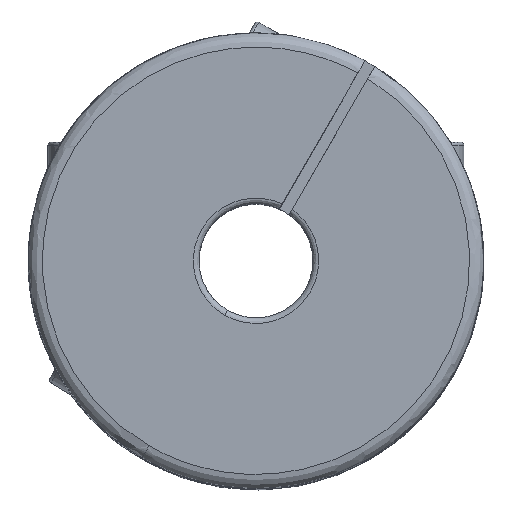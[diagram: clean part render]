
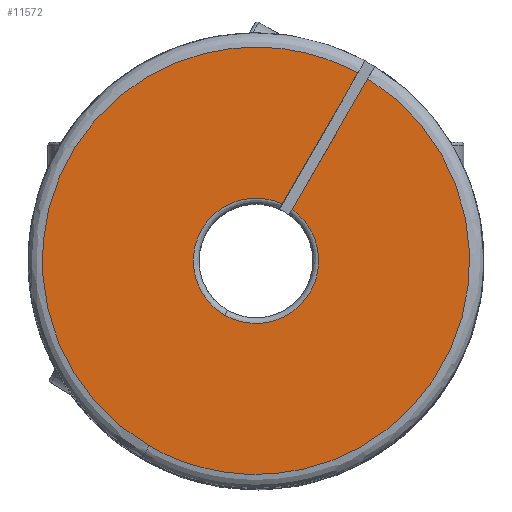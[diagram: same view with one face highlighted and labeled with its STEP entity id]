
A CAD part, top view. The second image highlights one B-rep face of the part: STEP entity #11572.
In plain terms, the highlighted planar face has unit normal (0, 0, 1).
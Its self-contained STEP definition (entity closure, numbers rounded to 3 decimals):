
#3156 = CARTESIAN_POINT ( 'NONE',  ( -1.629, -2.768, 60.552 ) ) ;
#3157 = CARTESIAN_POINT ( 'NONE',  ( -10.352, 2.268, 60.552 ) ) ;
#3158 = CARTESIAN_POINT ( 'NONE',  ( -5.718, 11.211, 60.552 ) ) ;
#3159 = CARTESIAN_POINT ( 'NONE',  ( 3.426, 6.989, 60.552 ) ) ;
#3161 =( BOUNDED_CURVE ( )  B_SPLINE_CURVE ( 3, ( #3159, #3158, #3157, #3156 ),
 .UNSPECIFIED., .F., .T. ) 
 B_SPLINE_CURVE_WITH_KNOTS ( ( 4, 4 ),
 ( 0., 1. ),
 .UNSPECIFIED. ) 
 CURVE ( )  GEOMETRIC_REPRESENTATION_ITEM ( )  RATIONAL_B_SPLINE_CURVE ( ( 1., 0.364, 0.364, 1. ) ) 
 REPRESENTATION_ITEM ( '' )  );
#3167 = PLANE ( 'NONE',  #3233 ) ;
#3168 = FACE_OUTER_BOUND ( 'NONE', #11573, .T. ) ;
#3216 = CARTESIAN_POINT ( 'NONE',  ( 4.292, 6.489, 60.552 ) ) ;
#3218 = DIRECTION ( 'NONE',  ( 0.5, 0.866, 0. ) ) ;
#3219 = VECTOR ( 'NONE', #3218, 1000. ) ;
#3220 = CARTESIAN_POINT ( 'NONE',  ( 4.292, 6.489, 60.552 ) ) ;
#3221 = LINE ( 'NONE', #3220, #3219 ) ;
#3222 = CARTESIAN_POINT ( 'NONE',  ( -8.254, -14.243, 60.552 ) ) ;
#3223 = CARTESIAN_POINT ( 'NONE',  ( 23.375, -32.504, 60.552 ) ) ;
#3224 = CARTESIAN_POINT ( 'NONE',  ( 42.057, -1.121, 60.552 ) ) ;
#3225 = CARTESIAN_POINT ( 'NONE',  ( 10.925, 17.978, 60.552 ) ) ;
#3228 = CARTESIAN_POINT ( 'NONE',  ( 10.925, 17.978, 60.552 ) ) ;
#3229 =( BOUNDED_CURVE ( )  B_SPLINE_CURVE ( 3, ( #3225, #3224, #3223, #3222 ),
 .UNSPECIFIED., .F., .F. ) 
 B_SPLINE_CURVE_WITH_KNOTS ( ( 4, 4 ),
 ( 0., 1. ),
 .UNSPECIFIED. ) 
 CURVE ( )  GEOMETRIC_REPRESENTATION_ITEM ( )  RATIONAL_B_SPLINE_CURVE ( ( 1., 0.342, 0.342, 1. ) ) 
 REPRESENTATION_ITEM ( '' )  );
#3230 = DIRECTION ( 'NONE',  ( -1., 0., 0. ) ) ;
#3231 = DIRECTION ( 'NONE',  ( 0., 0., -1. ) ) ;
#3232 = CARTESIAN_POINT ( 'NONE',  ( 1.121, 1.995, 60.552 ) ) ;
#3233 = AXIS2_PLACEMENT_3D ( 'NONE', #3232, #3231, #3230 ) ;
#3404 = CARTESIAN_POINT ( 'NONE',  ( 4.292, 6.489, 60.552 ) ) ;
#3405 = CARTESIAN_POINT ( 'NONE',  ( 12.521, 0.681, 60.552 ) ) ;
#3406 = CARTESIAN_POINT ( 'NONE',  ( 7.093, -7.804, 60.552 ) ) ;
#3407 = CARTESIAN_POINT ( 'NONE',  ( -1.629, -2.768, 60.552 ) ) ;
#3409 =( BOUNDED_CURVE ( )  B_SPLINE_CURVE ( 3, ( #3407, #3406, #3405, #3404 ),
 .UNSPECIFIED., .F., .T. ) 
 B_SPLINE_CURVE_WITH_KNOTS ( ( 4, 4 ),
 ( 0., 1. ),
 .UNSPECIFIED. ) 
 CURVE ( )  GEOMETRIC_REPRESENTATION_ITEM ( )  RATIONAL_B_SPLINE_CURVE ( ( 1., 0.364, 0.364, 1. ) ) 
 REPRESENTATION_ITEM ( '' )  );
#3422 = CARTESIAN_POINT ( 'NONE',  ( -1.629, -2.768, 60.552 ) ) ;
#10460 = VERTEX_POINT ( 'NONE', #17330 ) ;
#10462 = EDGE_CURVE ( 'NONE', #10460, #10463, #17329, .T. ) ;
#10463 = VERTEX_POINT ( 'NONE', #17315 ) ;
#10508 = EDGE_CURVE ( 'NONE', #10535, #10460, #17772, .T. ) ;
#10535 = VERTEX_POINT ( 'NONE', #17857 ) ;
#11557 = EDGE_CURVE ( 'NONE', #10463, #11636, #3161, .T. ) ;
#11558 = ORIENTED_EDGE ( 'NONE', *, *, #10462, .F. ) ;
#11572 = ADVANCED_FACE ( 'NONE', ( #3168 ), #3167, .F. ) ;
#11573 = EDGE_LOOP ( 'NONE', ( #11574, #11575, #11578, #11634, #11637, #11558 ) ) ;
#11574 = ORIENTED_EDGE ( 'NONE', *, *, #10508, .F. ) ;
#11575 = ORIENTED_EDGE ( 'NONE', *, *, #11576, .F. ) ;
#11576 = EDGE_CURVE ( 'NONE', #11577, #10535, #3229, .T. ) ;
#11577 = VERTEX_POINT ( 'NONE', #3228 ) ;
#11578 = ORIENTED_EDGE ( 'NONE', *, *, #11579, .F. ) ;
#11579 = EDGE_CURVE ( 'NONE', #11580, #11577, #3221, .T. ) ;
#11580 = VERTEX_POINT ( 'NONE', #3216 ) ;
#11634 = ORIENTED_EDGE ( 'NONE', *, *, #11635, .F. ) ;
#11635 = EDGE_CURVE ( 'NONE', #11636, #11580, #3409, .T. ) ;
#11636 = VERTEX_POINT ( 'NONE', #3422 ) ;
#11637 = ORIENTED_EDGE ( 'NONE', *, *, #11557, .F. ) ;
#17315 = CARTESIAN_POINT ( 'NONE',  ( 3.426, 6.989, 60.552 ) ) ;
#17316 = DIRECTION ( 'NONE',  ( -0.5, -0.866, 0. ) ) ;
#17327 = VECTOR ( 'NONE', #17316, 1000. ) ;
#17328 = CARTESIAN_POINT ( 'NONE',  ( 0.688, 2.245, 60.552 ) ) ;
#17329 = LINE ( 'NONE', #17328, #17327 ) ;
#17330 = CARTESIAN_POINT ( 'NONE',  ( 10.059, 18.478, 60.552 ) ) ;
#17768 = CARTESIAN_POINT ( 'NONE',  ( 10.059, 18.478, 60.552 ) ) ;
#17769 = CARTESIAN_POINT ( 'NONE',  ( -22.046, 35.889, 60.552 ) ) ;
#17770 = CARTESIAN_POINT ( 'NONE',  ( -39.884, 4.019, 60.552 ) ) ;
#17771 = CARTESIAN_POINT ( 'NONE',  ( -8.254, -14.243, 60.552 ) ) ;
#17772 =( BOUNDED_CURVE ( )  B_SPLINE_CURVE ( 3, ( #17771, #17770, #17769, #17768 ),
 .UNSPECIFIED., .F., .T. ) 
 B_SPLINE_CURVE_WITH_KNOTS ( ( 4, 4 ),
 ( 0., 1. ),
 .UNSPECIFIED. ) 
 CURVE ( )  GEOMETRIC_REPRESENTATION_ITEM ( )  RATIONAL_B_SPLINE_CURVE ( ( 1., 0.342, 0.342, 1. ) ) 
 REPRESENTATION_ITEM ( '' )  );
#17857 = CARTESIAN_POINT ( 'NONE',  ( -8.254, -14.243, 60.552 ) ) ;
